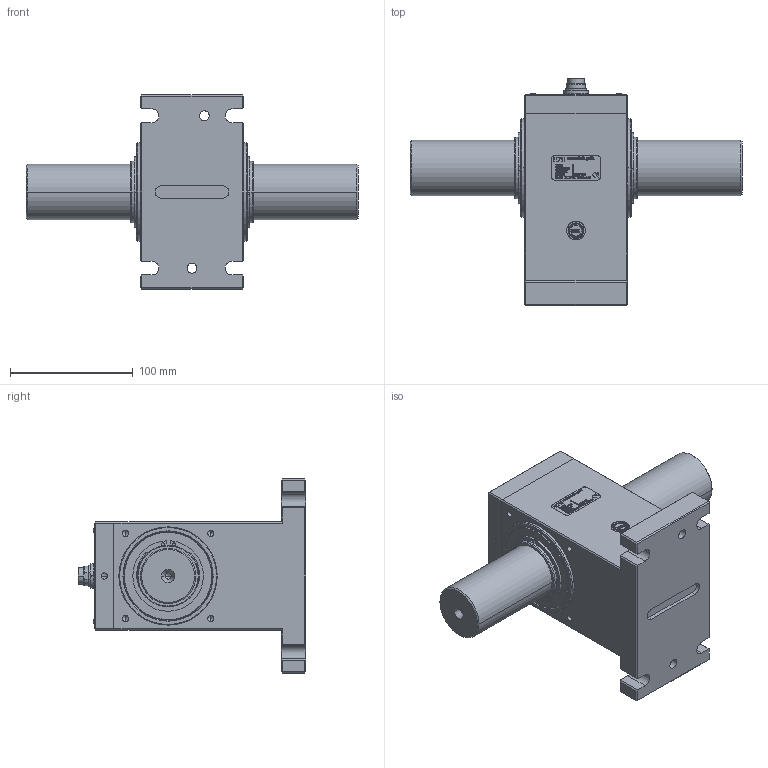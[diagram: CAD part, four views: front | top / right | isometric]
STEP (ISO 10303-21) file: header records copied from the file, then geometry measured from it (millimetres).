
FILE_DESCRIPTION (( 'STEP AP214' ), '1' );
FILE_NAME ('DRVL-IV-F.STEP', '2020-08-31T14:04:25', ( '' ), ( '' ), 'SwSTEP 2.0', 'SolidWorks 2020', '' );
FILE_SCHEMA (( 'AUTOMOTIVE_DESIGN' ));
Length unit declared in the file: millimetre
Products named in the file (1): DRVL-IV-F
Bounding box: 270 x 185.1 x 158 mm (x, y, z)
Volume: 1467553.2 mm3; surface area: 252721 mm2
Topology: 29 solids, 81 shells, 3400 faces, 9351 edges, 6135 vertices
Faces by surface type: plane 1501, bspline 924, cylinder 420, sphere 206, torus 178, cone 171
Entity records: 183390 total; most frequent: CARTESIAN_POINT 68024, ORIENTED_EDGE 17642, DIRECTION 13060, EDGE_CURVE 8821, VERTEX_POINT 5847, LINE 4898, VECTOR 4898, AXIS2_PLACEMENT_3D 4081
